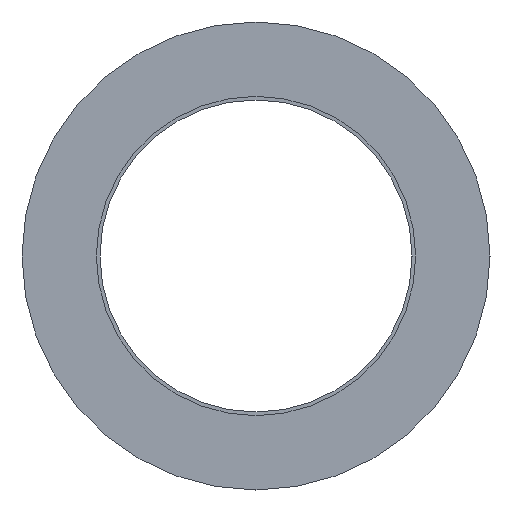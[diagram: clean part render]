
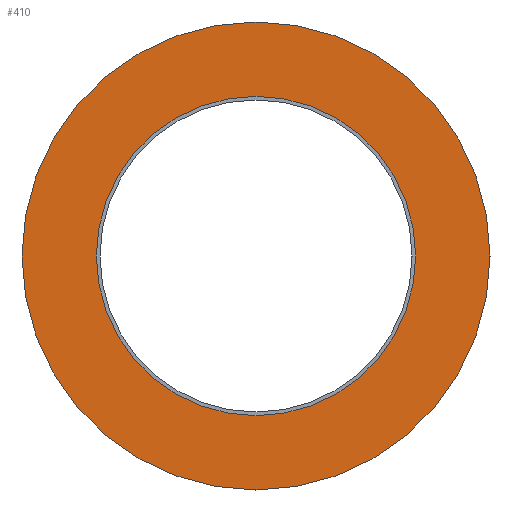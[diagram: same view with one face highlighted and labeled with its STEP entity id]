
A CAD part, left-side view. The second image highlights one B-rep face of the part: STEP entity #410.
In plain terms, the highlighted planar face has unit normal (-1, 0, 0).
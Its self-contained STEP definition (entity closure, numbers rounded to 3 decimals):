
#3 = AXIS2_PLACEMENT_3D ( 'NONE', #287, #98, #128 ) ;
#6 = DIRECTION ( 'NONE',  ( -1., 0., 0. ) ) ;
#8 = VERTEX_POINT ( 'NONE', #280 ) ;
#19 = ORIENTED_EDGE ( 'NONE', *, *, #268, .T. ) ;
#44 = DIRECTION ( 'NONE',  ( 1., 0., 0. ) ) ;
#49 = AXIS2_PLACEMENT_3D ( 'NONE', #155, #6, #218 ) ;
#57 = VERTEX_POINT ( 'NONE', #200 ) ;
#64 = CARTESIAN_POINT ( 'NONE',  ( -1.863, -0.389, 0. ) ) ;
#76 = DIRECTION ( 'NONE',  ( 0., 0., 1. ) ) ;
#82 = EDGE_LOOP ( 'NONE', ( #394, #19 ) ) ;
#97 = DIRECTION ( 'NONE',  ( 0., 0., 1. ) ) ;
#98 = DIRECTION ( 'NONE',  ( -1., 0., 0. ) ) ;
#117 = CIRCLE ( 'NONE', #385, 4.5 ) ;
#128 = DIRECTION ( 'NONE',  ( 0., 0., 1. ) ) ;
#132 = CARTESIAN_POINT ( 'NONE',  ( -1.863, -0.442, 0. ) ) ;
#155 = CARTESIAN_POINT ( 'NONE',  ( -1.863, -0.389, 0. ) ) ;
#162 = CARTESIAN_POINT ( 'NONE',  ( -1.863, -0.389, -4.5 ) ) ;
#171 = AXIS2_PLACEMENT_3D ( 'NONE', #132, #44, #255 ) ;
#184 = EDGE_CURVE ( 'NONE', #8, #407, #272, .T. ) ;
#194 = CIRCLE ( 'NONE', #3, 4.5 ) ;
#200 = CARTESIAN_POINT ( 'NONE',  ( -1.863, -0.389, 4.5 ) ) ;
#205 = ORIENTED_EDGE ( 'NONE', *, *, #184, .F. ) ;
#211 = CARTESIAN_POINT ( 'NONE',  ( -1.863, -0.389, 0. ) ) ;
#213 = AXIS2_PLACEMENT_3D ( 'NONE', #211, #263, #76 ) ;
#218 = DIRECTION ( 'NONE',  ( 0., 0., 1. ) ) ;
#222 = PLANE ( 'NONE',  #171 ) ;
#225 = CARTESIAN_POINT ( 'NONE',  ( -1.863, -0.389, -3.07 ) ) ;
#235 = EDGE_LOOP ( 'NONE', ( #244, #205 ) ) ;
#240 = FACE_BOUND ( 'NONE', #235, .T. ) ;
#244 = ORIENTED_EDGE ( 'NONE', *, *, #348, .F. ) ;
#255 = DIRECTION ( 'NONE',  ( 0., 0., -1. ) ) ;
#263 = DIRECTION ( 'NONE',  ( -1., 0., 0. ) ) ;
#264 = FACE_OUTER_BOUND ( 'NONE', #82, .T. ) ;
#268 = EDGE_CURVE ( 'NONE', #271, #57, #117, .T. ) ;
#271 = VERTEX_POINT ( 'NONE', #162 ) ;
#272 = CIRCLE ( 'NONE', #213, 3.07 ) ;
#275 = CIRCLE ( 'NONE', #49, 3.07 ) ;
#280 = CARTESIAN_POINT ( 'NONE',  ( -1.863, -0.389, 3.07 ) ) ;
#282 = EDGE_CURVE ( 'NONE', #57, #271, #194, .T. ) ;
#286 = DIRECTION ( 'NONE',  ( -1., 0., 0. ) ) ;
#287 = CARTESIAN_POINT ( 'NONE',  ( -1.863, -0.389, 0. ) ) ;
#348 = EDGE_CURVE ( 'NONE', #407, #8, #275, .T. ) ;
#385 = AXIS2_PLACEMENT_3D ( 'NONE', #64, #286, #97 ) ;
#394 = ORIENTED_EDGE ( 'NONE', *, *, #282, .T. ) ;
#407 = VERTEX_POINT ( 'NONE', #225 ) ;
#410 = ADVANCED_FACE ( 'NONE', ( #240, #264 ), #222, .F. ) ;
